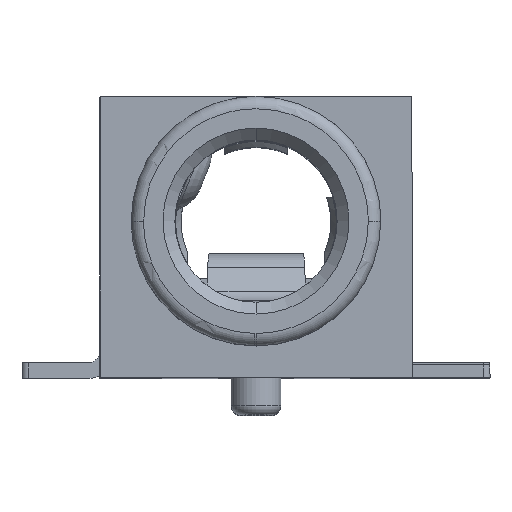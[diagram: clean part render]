
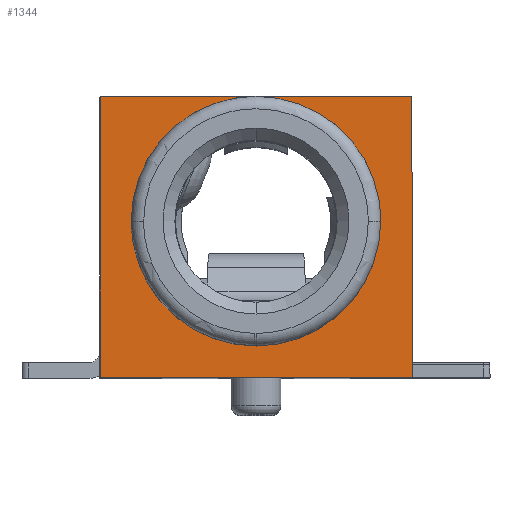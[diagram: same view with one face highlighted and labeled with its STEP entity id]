
A CAD part, top view. The second image highlights one B-rep face of the part: STEP entity #1344.
In plain terms, the highlighted planar face has unit normal (0, 0, 1) as drawn and (0, 0, -1) by its records, which use the part's own axes.
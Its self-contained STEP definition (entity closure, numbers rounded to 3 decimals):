
#1 = ORIENTED_EDGE ( 'NONE', *, *, #13346, .T. ) ;
#479 = CARTESIAN_POINT ( 'NONE',  ( -6.985, 2.456, 5.148 ) ) ;
#664 = EDGE_CURVE ( 'NONE', #1085, #9358, #6264, .T. ) ;
#849 = VECTOR ( 'NONE', #12901, 1000. ) ;
#861 = VECTOR ( 'NONE', #11451, 1000. ) ;
#986 = DIRECTION ( 'NONE',  ( 0., -1., 0. ) ) ;
#1085 = VERTEX_POINT ( 'NONE', #4028 ) ;
#1344 = ADVANCED_FACE ( 'NONE', ( #6941, #11082 ), #1789, .F. ) ;
#1789 = PLANE ( 'NONE',  #12319 ) ;
#1818 = VERTEX_POINT ( 'NONE', #8017 ) ;
#2076 = CARTESIAN_POINT ( 'NONE',  ( -6.985, 2.456, 5.148 ) ) ;
#2202 = ORIENTED_EDGE ( 'NONE', *, *, #2340, .T. ) ;
#2340 = EDGE_CURVE ( 'NONE', #1818, #10825, #9777, .T. ) ;
#2365 = CIRCLE ( 'NONE', #5186, 2. ) ;
#2756 = ORIENTED_EDGE ( 'NONE', *, *, #11708, .T. ) ;
#2909 = DIRECTION ( 'NONE',  ( 0., -1., 0. ) ) ;
#2910 = EDGE_CURVE ( 'NONE', #9358, #1085, #2365, .T. ) ;
#3019 = CARTESIAN_POINT ( 'NONE',  ( -4.485, 4.956, 5.148 ) ) ;
#4028 = CARTESIAN_POINT ( 'NONE',  ( -4.485, 6.956, 5.148 ) ) ;
#5186 = AXIS2_PLACEMENT_3D ( 'NONE', #3019, #6148, #986 ) ;
#5926 = CARTESIAN_POINT ( 'NONE',  ( -6.985, 2.456, 5.148 ) ) ;
#6148 = DIRECTION ( 'NONE',  ( 0., 0., -1. ) ) ;
#6156 = LINE ( 'NONE', #2076, #861 ) ;
#6264 = CIRCLE ( 'NONE', #12742, 2. ) ;
#6941 = FACE_OUTER_BOUND ( 'NONE', #9555, .T. ) ;
#7473 = VECTOR ( 'NONE', #11938, 1000. ) ;
#7715 = CARTESIAN_POINT ( 'NONE',  ( -6.985, 6.956, 5.148 ) ) ;
#7850 = CARTESIAN_POINT ( 'NONE',  ( -1.985, 2.456, 5.148 ) ) ;
#8017 = CARTESIAN_POINT ( 'NONE',  ( -6.985, 6.956, 5.148 ) ) ;
#8418 = VERTEX_POINT ( 'NONE', #12846 ) ;
#8709 = DIRECTION ( 'NONE',  ( 0., 0., 1. ) ) ;
#8742 = LINE ( 'NONE', #7715, #7473 ) ;
#9009 = LINE ( 'NONE', #7850, #12590 ) ;
#9233 = CARTESIAN_POINT ( 'NONE',  ( -4.485, 4.956, 5.148 ) ) ;
#9358 = VERTEX_POINT ( 'NONE', #11150 ) ;
#9555 = EDGE_LOOP ( 'NONE', ( #13282, #12281 ) ) ;
#9610 = ORIENTED_EDGE ( 'NONE', *, *, #10971, .T. ) ;
#9777 = LINE ( 'NONE', #479, #849 ) ;
#10716 = CARTESIAN_POINT ( 'NONE',  ( -1.985, 6.956, 5.148 ) ) ;
#10825 = VERTEX_POINT ( 'NONE', #12908 ) ;
#10971 = EDGE_CURVE ( 'NONE', #10825, #8418, #6156, .T. ) ;
#11082 = FACE_BOUND ( 'NONE', #11781, .T. ) ;
#11150 = CARTESIAN_POINT ( 'NONE',  ( -4.485, 2.956, 5.148 ) ) ;
#11451 = DIRECTION ( 'NONE',  ( 1., 0., 0. ) ) ;
#11708 = EDGE_CURVE ( 'NONE', #8418, #13345, #9009, .T. ) ;
#11781 = EDGE_LOOP ( 'NONE', ( #1, #2202, #9610, #2756 ) ) ;
#11938 = DIRECTION ( 'NONE',  ( -1., 0., 0. ) ) ;
#12281 = ORIENTED_EDGE ( 'NONE', *, *, #664, .T. ) ;
#12319 = AXIS2_PLACEMENT_3D ( 'NONE', #5926, #8709, #12859 ) ;
#12590 = VECTOR ( 'NONE', #13165, 1000. ) ;
#12742 = AXIS2_PLACEMENT_3D ( 'NONE', #9233, #13389, #2909 ) ;
#12846 = CARTESIAN_POINT ( 'NONE',  ( -1.985, 2.456, 5.148 ) ) ;
#12859 = DIRECTION ( 'NONE',  ( 0., -1., 0. ) ) ;
#12901 = DIRECTION ( 'NONE',  ( 0., -1., 0. ) ) ;
#12908 = CARTESIAN_POINT ( 'NONE',  ( -6.985, 2.456, 5.148 ) ) ;
#13165 = DIRECTION ( 'NONE',  ( 0., 1., 0. ) ) ;
#13282 = ORIENTED_EDGE ( 'NONE', *, *, #2910, .T. ) ;
#13345 = VERTEX_POINT ( 'NONE', #10716 ) ;
#13346 = EDGE_CURVE ( 'NONE', #13345, #1818, #8742, .T. ) ;
#13389 = DIRECTION ( 'NONE',  ( 0., 0., -1. ) ) ;
